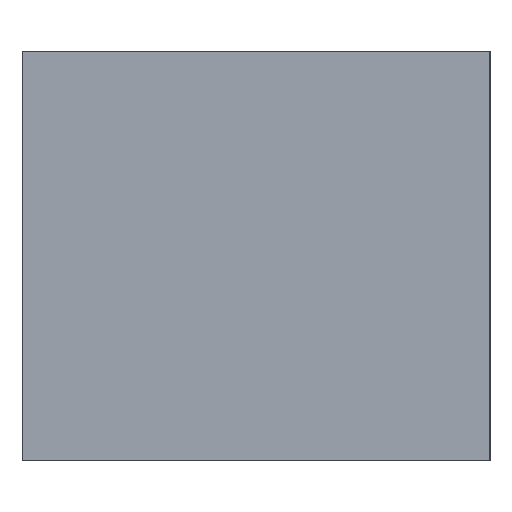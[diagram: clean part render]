
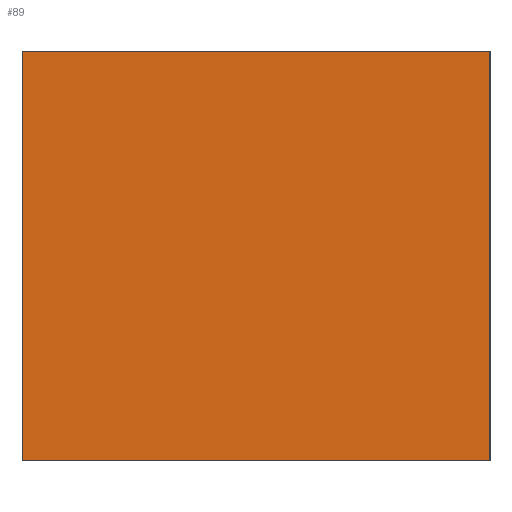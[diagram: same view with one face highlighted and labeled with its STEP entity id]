
A CAD part, left-side view. The second image highlights one B-rep face of the part: STEP entity #89.
In plain terms, the highlighted planar face has unit normal (-1, 0, 0).
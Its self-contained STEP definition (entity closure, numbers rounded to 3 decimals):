
#89=ADVANCED_FACE('',(#201),#203,.T.);
#201=FACE_BOUND('',#202,.T.);
#202=EDGE_LOOP('',(#289,#290,#291,#292));
#203=PLANE('',#204);
#204=AXIS2_PLACEMENT_3D('',#205,#206,#207);
#205=CARTESIAN_POINT('',(-40.,0.,-3.5));
#206=DIRECTION('',(-1.,0.,0.));
#207=DIRECTION('',(0.,0.,1.));
#289=ORIENTED_EDGE('',*,*,#326,.T.);
#290=ORIENTED_EDGE('',*,*,#331,.T.);
#291=ORIENTED_EDGE('',*,*,#317,.F.);
#292=ORIENTED_EDGE('',*,*,#332,.F.);
#317=EDGE_CURVE('',#339,#340,#341,.T.);
#326=EDGE_CURVE('',#352,#356,#358,.T.);
#331=EDGE_CURVE('',#356,#340,#367,.T.);
#332=EDGE_CURVE('',#352,#339,#368,.T.);
#339=VERTEX_POINT('',#379);
#340=VERTEX_POINT('',#380);
#341=LINE('',#381,#382);
#352=VERTEX_POINT('',#406);
#356=VERTEX_POINT('',#414);
#358=LINE('',#418,#419);
#367=LINE('',#441,#442);
#368=LINE('',#444,#445);
#379=CARTESIAN_POINT('',(-40.,8.,-3.5));
#380=CARTESIAN_POINT('',(-40.,8.,3.5));
#381=CARTESIAN_POINT('',(-40.,8.,-3.5));
#382=VECTOR('',#383,1.);
#383=DIRECTION('',(0.,0.,1.));
#406=CARTESIAN_POINT('',(-40.,0.,-3.5));
#414=CARTESIAN_POINT('',(-40.,0.,3.5));
#418=CARTESIAN_POINT('',(-40.,0.,-3.5));
#419=VECTOR('',#420,1.);
#420=DIRECTION('',(0.,0.,1.));
#441=CARTESIAN_POINT('',(-40.,0.,3.5));
#442=VECTOR('',#443,1.);
#443=DIRECTION('',(0.,1.,0.));
#444=CARTESIAN_POINT('',(-40.,0.,-3.5));
#445=VECTOR('',#446,1.);
#446=DIRECTION('',(0.,1.,0.));
